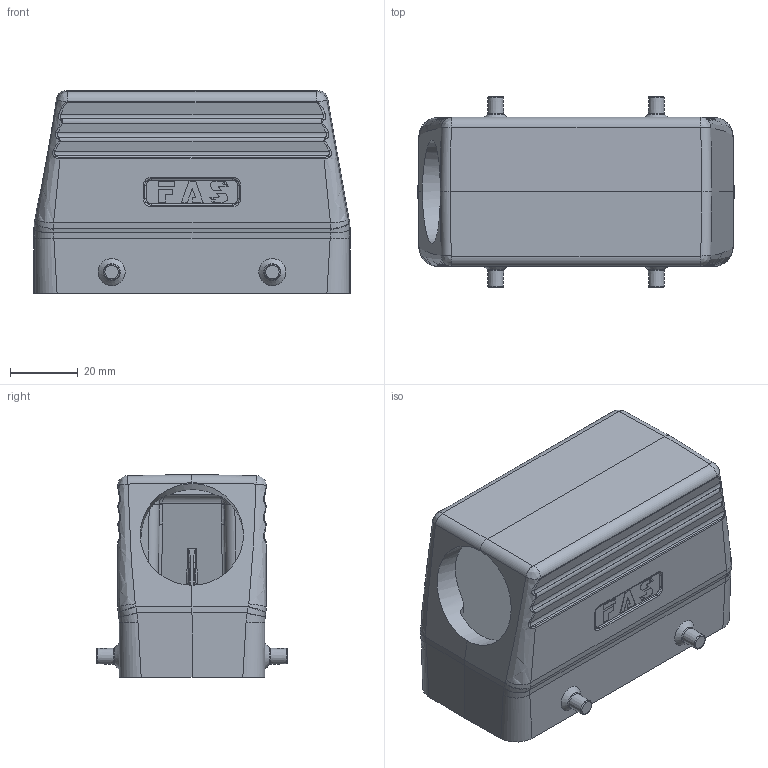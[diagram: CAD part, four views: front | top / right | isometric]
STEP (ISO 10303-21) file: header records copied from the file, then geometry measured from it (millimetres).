
FILE_DESCRIPTION (( 'STEP AP203' ), '1' );
FILE_NAME ('H16B-TS-M32.STEP', '2023-06-07T08:37:35', ( '' ), ( '' ), 'SwSTEP 2.0', 'SolidWorks 2016', '' );
FILE_SCHEMA (( 'CONFIG_CONTROL_DESIGN' ));
Length unit declared in the file: millimetre
Products named in the file (1): H16B-TS-M32
Bounding box: 93.5 x 56.4 x 60 mm (x, y, z)
Volume: 71222.3 mm3; surface area: 34369.6 mm2
Topology: 1 solids, 1 shells, 489 faces, 1196 edges, 736 vertices
Faces by surface type: plane 171, cylinder 136, bspline 130, cone 24, torus 24, sphere 4
Full cylindrical faces by diameter (mm): 30.5 x1
Entity records: 22801 total; most frequent: CARTESIAN_POINT 12769, ORIENTED_EDGE 2306, DIRECTION 1636, EDGE_CURVE 1153, VERTEX_POINT 726, AXIS2_PLACEMENT_3D 564, EDGE_LOOP 551, LINE 508
